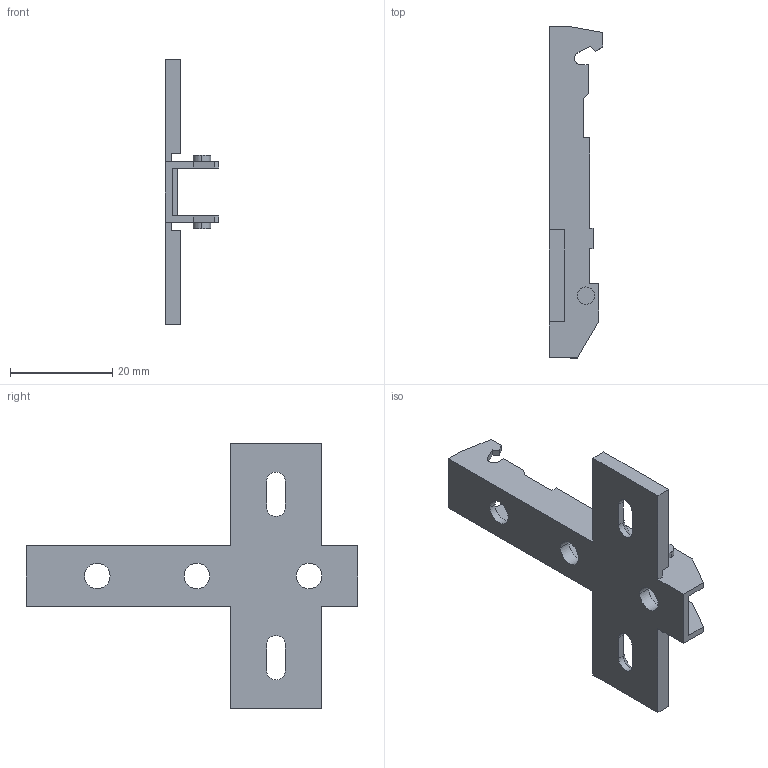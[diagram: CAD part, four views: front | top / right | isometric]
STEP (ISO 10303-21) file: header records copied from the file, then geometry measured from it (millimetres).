
FILE_DESCRIPTION (( 'STEP AP214' ), '1' );
FILE_NAME ('Eco Kreuzmontageplatte LR28_32_Spax_H00.step', '2010-11-18T10:05:28', ( 'grass' ), ( '' ), 'SwSTEP 2.0', 'SolidWorks 2010', '' );
FILE_SCHEMA (( 'AUTOMOTIVE_DESIGN' ));
Length unit declared in the file: millimetre
Products named in the file (1): Eco Kreuzmontageplatte LR28_32_Spax_H00
Bounding box: 10.5 x 65 x 52 mm (x, y, z)
Volume: 4105.1 mm3; surface area: 5251.6 mm2
Topology: 1 solids, 1 shells, 90 faces, 250 edges, 164 vertices
Faces by surface type: plane 70, cylinder 16, cone 4
Entity records: 2900 total; most frequent: CARTESIAN_POINT 505, ORIENTED_EDGE 500, DIRECTION 468, EDGE_CURVE 250, LINE 214, VECTOR 214, VERTEX_POINT 164, AXIS2_PLACEMENT_3D 127
